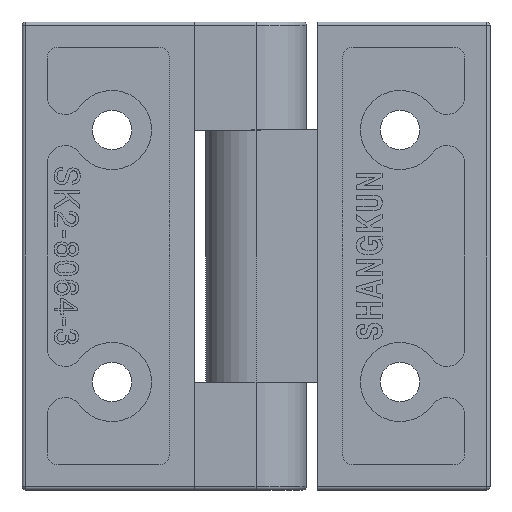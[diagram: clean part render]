
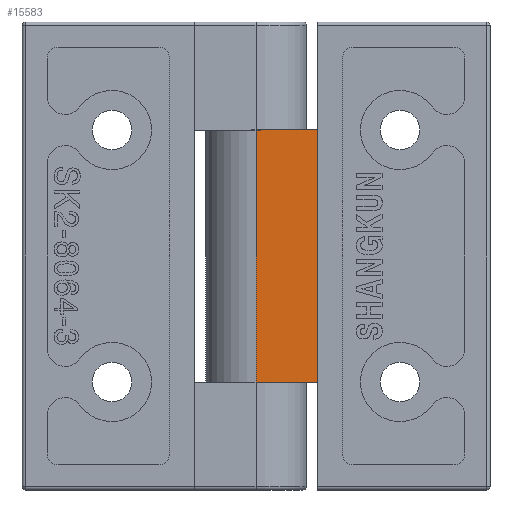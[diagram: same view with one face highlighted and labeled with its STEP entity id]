
A CAD part, front view. The second image highlights one B-rep face of the part: STEP entity #15583.
In plain terms, the highlighted planar face has unit normal (0, -1, 0).
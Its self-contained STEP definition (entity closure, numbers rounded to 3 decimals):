
#44 = DIRECTION ( 'NONE',  ( 0., 0., -1. ) ) ;
#636 = VERTEX_POINT ( 'NONE', #11701 ) ;
#2493 = DIRECTION ( 'NONE',  ( -1., 0., 0. ) ) ;
#2648 = LINE ( 'NONE', #9844, #12567 ) ;
#2659 = EDGE_CURVE ( 'NONE', #10955, #10785, #5636, .T. ) ;
#2767 = VECTOR ( 'NONE', #2493, 1000. ) ;
#3278 = EDGE_LOOP ( 'NONE', ( #13142, #14817, #16209, #17360 ) ) ;
#3315 = AXIS2_PLACEMENT_3D ( 'NONE', #7730, #15795, #7782 ) ;
#3575 = CARTESIAN_POINT ( 'NONE',  ( 0., -7., 50. ) ) ;
#5263 = LINE ( 'NONE', #16116, #8436 ) ;
#5636 = LINE ( 'NONE', #3575, #15951 ) ;
#6019 = FACE_OUTER_BOUND ( 'NONE', #3278, .T. ) ;
#6311 = CARTESIAN_POINT ( 'NONE',  ( 0., -7., 15. ) ) ;
#7645 = DIRECTION ( 'NONE',  ( -1., 0., 0. ) ) ;
#7730 = CARTESIAN_POINT ( 'NONE',  ( 0., -7., 65. ) ) ;
#7782 = DIRECTION ( 'NONE',  ( 0., 0., 1. ) ) ;
#8186 = EDGE_CURVE ( 'NONE', #10955, #8798, #5263, .T. ) ;
#8436 = VECTOR ( 'NONE', #44, 1000. ) ;
#8452 = CARTESIAN_POINT ( 'NONE',  ( 0., -7., 50. ) ) ;
#8798 = VERTEX_POINT ( 'NONE', #17035 ) ;
#9732 = EDGE_CURVE ( 'NONE', #10785, #636, #2648, .T. ) ;
#9844 = CARTESIAN_POINT ( 'NONE',  ( 0., -7., 65. ) ) ;
#10544 = CARTESIAN_POINT ( 'NONE',  ( 8.5, -7., 50. ) ) ;
#10785 = VERTEX_POINT ( 'NONE', #8452 ) ;
#10955 = VERTEX_POINT ( 'NONE', #10544 ) ;
#11216 = DIRECTION ( 'NONE',  ( 0., 0., -1. ) ) ;
#11701 = CARTESIAN_POINT ( 'NONE',  ( 0., -7., 15. ) ) ;
#12567 = VECTOR ( 'NONE', #11216, 1000. ) ;
#12860 = EDGE_CURVE ( 'NONE', #8798, #636, #13950, .T. ) ;
#13142 = ORIENTED_EDGE ( 'NONE', *, *, #2659, .T. ) ;
#13950 = LINE ( 'NONE', #6311, #2767 ) ;
#14490 = PLANE ( 'NONE',  #3315 ) ;
#14817 = ORIENTED_EDGE ( 'NONE', *, *, #9732, .T. ) ;
#15583 = ADVANCED_FACE ( 'NONE', ( #6019 ), #14490, .F. ) ;
#15795 = DIRECTION ( 'NONE',  ( 0., 1., 0. ) ) ;
#15951 = VECTOR ( 'NONE', #7645, 1000. ) ;
#16116 = CARTESIAN_POINT ( 'NONE',  ( 8.5, -7., 65. ) ) ;
#16209 = ORIENTED_EDGE ( 'NONE', *, *, #12860, .F. ) ;
#17035 = CARTESIAN_POINT ( 'NONE',  ( 8.5, -7., 15. ) ) ;
#17360 = ORIENTED_EDGE ( 'NONE', *, *, #8186, .F. ) ;
